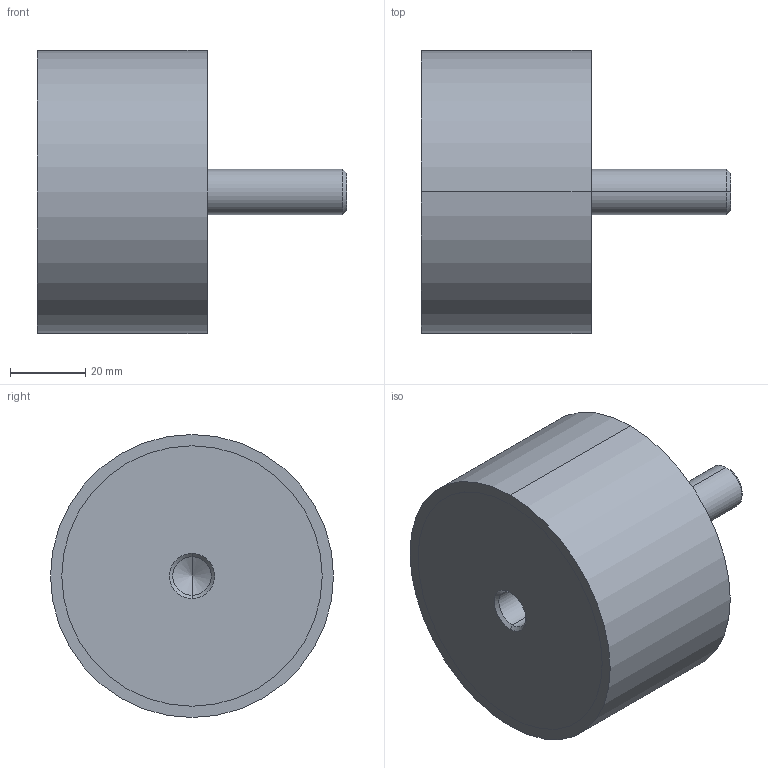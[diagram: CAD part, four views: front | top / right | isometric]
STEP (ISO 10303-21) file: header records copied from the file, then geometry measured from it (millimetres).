
FILE_DESCRIPTION (( 'STEP AP214' ), '1' );
FILE_NAME ('351-75-45-M12-ES-40.step', '2025-07-23T09:59:43', ( '' ), ( '' ), 'SwSTEP 2.0', 'SolidWorks 2022', '' );
FILE_SCHEMA (( 'AUTOMOTIVE_DESIGN' ));
Length unit declared in the file: millimetre
Products named in the file (1): 351-75-45-M12-ES-40
Bounding box: 82 x 75 x 75 mm (x, y, z)
Volume: 201700.8 mm3; surface area: 21240.6 mm2
Topology: 1 solids, 1 shells, 24 faces, 48 edges, 29 vertices
Faces by surface type: cylinder 12, cone 6, plane 6
Entity records: 740 total; most frequent: DIRECTION 124, CARTESIAN_POINT 100, ORIENTED_EDGE 92, AXIS2_PLACEMENT_3D 53, EDGE_CURVE 46, EDGE_LOOP 29, VERTEX_POINT 29, CIRCLE 28
